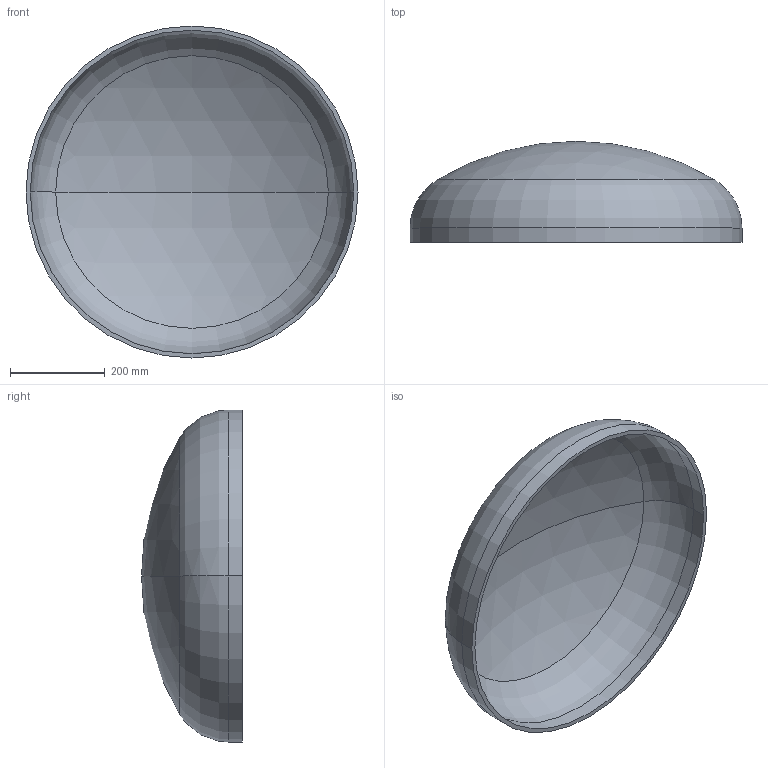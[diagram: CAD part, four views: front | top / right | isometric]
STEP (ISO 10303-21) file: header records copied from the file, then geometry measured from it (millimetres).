
FILE_DESCRIPTION (( 'STEP AP203' ), '1' );
FILE_NAME ('DIN 28013 Korbbogenform_-_Boden DIN 28013 - 700 x 30 - I - s=9.step', '2016-07-01T08:03:58', ( '' ), ( '' ), 'SwSTEP 2.0', 'SolidWorks 2013', '' );
FILE_SCHEMA (( 'CONFIG_CONTROL_DESIGN' ));
Length unit declared in the file: millimetre
Products named in the file (1): DIN 28013 Korbbogenform_-_Boden DIN 28013 - 700 x 30 - I - s=9
Bounding box: 700 x 212.81 x 700 mm (x, y, z)
Volume: 5321286.6 mm3; surface area: 1202214.9 mm2
Topology: 1 solids, 1 shells, 13 faces, 24 edges, 14 vertices
Faces by surface type: torus 4, cylinder 4, sphere 4, plane 1
Entity records: 407 total; most frequent: DIRECTION 72, CARTESIAN_POINT 52, ORIENTED_EDGE 48, AXIS2_PLACEMENT_3D 34, EDGE_CURVE 24, CIRCLE 20, VERTEX_POINT 14, EDGE_LOOP 14
